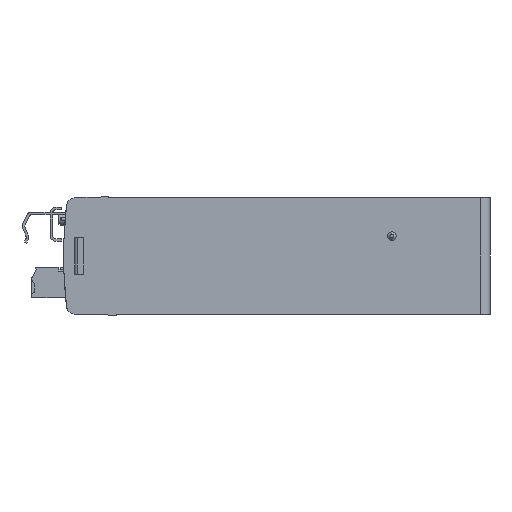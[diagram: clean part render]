
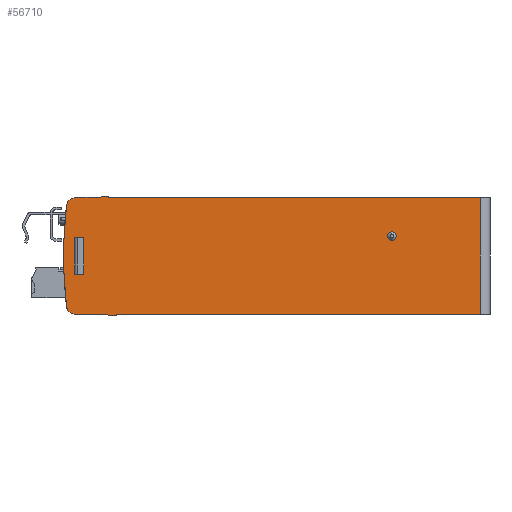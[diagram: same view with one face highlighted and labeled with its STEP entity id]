
A CAD part, left-side view. The second image highlights one B-rep face of the part: STEP entity #56710.
In plain terms, the highlighted planar face has unit normal (-1, 0, 0).
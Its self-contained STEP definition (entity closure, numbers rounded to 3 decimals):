
#3911 = EDGE_CURVE ( 'NONE', #53905, #53910, #69058, .T. ) ;
#4457 = EDGE_CURVE ( 'NONE', #53421, #53531, #69186, .T. ) ;
#4671 = EDGE_CURVE ( 'NONE', #59733, #59724, #8172, .T. ) ;
#4737 = EDGE_CURVE ( 'NONE', #59744, #59745, #8271, .T. ) ;
#5157 = CARTESIAN_POINT ( 'NONE',  ( -124.5, -164.811, -35. ) ) ;
#5158 = DIRECTION ( 'NONE',  ( -1., 0., 0. ) ) ;
#5159 = DIRECTION ( 'NONE',  ( 0., 0., -1. ) ) ;
#6575 = VECTOR ( 'NONE', #8174, 1000. ) ;
#6607 = VECTOR ( 'NONE', #8273, 1000. ) ;
#8172 = LINE ( 'NONE', #8173, #6575 ) ;
#8173 = CARTESIAN_POINT ( 'NONE',  ( -124.5, 0., 0. ) ) ;
#8174 = DIRECTION ( 'NONE',  ( 0., 1., 0. ) ) ;
#8271 = LINE ( 'NONE', #8272, #6607 ) ;
#8272 = CARTESIAN_POINT ( 'NONE',  ( -124.5, 101.981, -70. ) ) ;
#8273 = DIRECTION ( 'NONE',  ( 0., -1., 0. ) ) ;
#16064 = AXIS2_PLACEMENT_3D ( 'NONE', #5157, #5158, #5159 ) ;
#17372 = CARTESIAN_POINT ( 'NONE',  ( -124.5, 96.841, -64.298 ) ) ;
#17376 = DIRECTION ( 'NONE',  ( -1., 0., 0. ) ) ;
#17377 = DIRECTION ( 'NONE',  ( 0., 0., -1. ) ) ;
#17516 = AXIS2_PLACEMENT_3D ( 'NONE', #17372, #17376, #17377 ) ;
#17651 = VECTOR ( 'NONE', #19095, 1000. ) ;
#17835 = VECTOR ( 'NONE', #19811, 1000. ) ;
#17942 = AXIS2_PLACEMENT_3D ( 'NONE', #20904, #20905, #20906 ) ;
#18093 = VECTOR ( 'NONE', #21899, 1000. ) ;
#18094 = VECTOR ( 'NONE', #21904, 1000. ) ;
#18095 = VECTOR ( 'NONE', #21909, 1000. ) ;
#18096 = VECTOR ( 'NONE', #21913, 1000. ) ;
#18097 = VECTOR ( 'NONE', #21916, 1000. ) ;
#18098 = AXIS2_PLACEMENT_3D ( 'NONE', #21895, #21923, #21924 ) ;
#18099 = VECTOR ( 'NONE', #21919, 1000. ) ;
#18100 = VECTOR ( 'NONE', #21922, 1000. ) ;
#19093 = LINE ( 'NONE', #19094, #17651 ) ;
#19094 = CARTESIAN_POINT ( 'NONE',  ( -124.5, 72.318, -70.518 ) ) ;
#19095 = DIRECTION ( 'NONE',  ( 0., 1., 0.017 ) ) ;
#19809 = LINE ( 'NONE', #19810, #17835 ) ;
#19810 = CARTESIAN_POINT ( 'NONE',  ( -124.5, 77.362, 0.518 ) ) ;
#19811 = DIRECTION ( 'NONE',  ( 0., -1., 0.021 ) ) ;
#20904 = CARTESIAN_POINT ( 'NONE',  ( -124.5, 96.839, -5.684 ) ) ;
#20905 = DIRECTION ( 'NONE',  ( -1., 0., 0. ) ) ;
#20906 = DIRECTION ( 'NONE',  ( 0., 0., -1. ) ) ;
#21895 = CARTESIAN_POINT ( 'NONE',  ( -124.5, -92.837, -23.086 ) ) ;
#21896 = LINE ( 'NONE', #21898, #18093 ) ;
#21898 = CARTESIAN_POINT ( 'NONE',  ( -124.5, 72.318, -70. ) ) ;
#21899 = DIRECTION ( 'NONE',  ( 0., 0., -1. ) ) ;
#21901 = LINE ( 'NONE', #21903, #18094 ) ;
#21903 = CARTESIAN_POINT ( 'NONE',  ( -124.5, -145.942, 0. ) ) ;
#21904 = DIRECTION ( 'NONE',  ( 0., 0., 1. ) ) ;
#21906 = LINE ( 'NONE', #21907, #18095 ) ;
#21907 = CARTESIAN_POINT ( 'NONE',  ( -124.5, 77.362, 0. ) ) ;
#21909 = DIRECTION ( 'NONE',  ( 0., 0., -1. ) ) ;
#21911 = LINE ( 'NONE', #21912, #18096 ) ;
#21912 = CARTESIAN_POINT ( 'NONE',  ( -124.5, 97.663, -24.026 ) ) ;
#21913 = DIRECTION ( 'NONE',  ( 0., 0., -1. ) ) ;
#21914 = LINE ( 'NONE', #21915, #18097 ) ;
#21915 = CARTESIAN_POINT ( 'NONE',  ( -124.5, 96.144, -24.026 ) ) ;
#21916 = DIRECTION ( 'NONE',  ( 0., 1., 0. ) ) ;
#21917 = LINE ( 'NONE', #21918, #18099 ) ;
#21918 = CARTESIAN_POINT ( 'NONE',  ( -124.5, 96.144, -24.026 ) ) ;
#21919 = DIRECTION ( 'NONE',  ( 0., 0., -1. ) ) ;
#21920 = LINE ( 'NONE', #21921, #18100 ) ;
#21921 = CARTESIAN_POINT ( 'NONE',  ( -124.5, 96.144, -45.87 ) ) ;
#21922 = DIRECTION ( 'NONE',  ( 0., 1., 0. ) ) ;
#21923 = DIRECTION ( 'NONE',  ( -1., 0., 0. ) ) ;
#21924 = DIRECTION ( 'NONE',  ( 0., 0., -1. ) ) ;
#22956 = AXIS2_PLACEMENT_3D ( 'NONE', #30758, #30759, #30760 ) ;
#22958 = FACE_OUTER_BOUND ( 'NONE', #54123, .T. ) ;
#22960 = FACE_BOUND ( 'NONE', #54124, .T. ) ;
#22962 = FACE_BOUND ( 'NONE', #54125, .T. ) ;
#26418 = ORIENTED_EDGE ( 'NONE', *, *, #51654, .F. ) ;
#26419 = ORIENTED_EDGE ( 'NONE', *, *, #51333, .T. ) ;
#26420 = ORIENTED_EDGE ( 'NONE', *, *, #51814, .T. ) ;
#26421 = ORIENTED_EDGE ( 'NONE', *, *, #4457, .T. ) ;
#26422 = ORIENTED_EDGE ( 'NONE', *, *, #51443, .F. ) ;
#26423 = ORIENTED_EDGE ( 'NONE', *, *, #51985, .F. ) ;
#26424 = ORIENTED_EDGE ( 'NONE', *, *, #4737, .T. ) ;
#26425 = ORIENTED_EDGE ( 'NONE', *, *, #51986, .T. ) ;
#26426 = ORIENTED_EDGE ( 'NONE', *, *, #4671, .T. ) ;
#26427 = ORIENTED_EDGE ( 'NONE', *, *, #51987, .F. ) ;
#26428 = ORIENTED_EDGE ( 'NONE', *, *, #51988, .F. ) ;
#26429 = ORIENTED_EDGE ( 'NONE', *, *, #51990, .T. ) ;
#26430 = ORIENTED_EDGE ( 'NONE', *, *, #51989, .F. ) ;
#26431 = ORIENTED_EDGE ( 'NONE', *, *, #51991, .T. ) ;
#26433 = ORIENTED_EDGE ( 'NONE', *, *, #51992, .F. ) ;
#26434 = ORIENTED_EDGE ( 'NONE', *, *, #3911, .F. ) ;
#27805 = CARTESIAN_POINT ( 'NONE',  ( -124.5, 96.144, -45.87 ) ) ;
#27806 = CARTESIAN_POINT ( 'NONE',  ( -124.5, 96.144, -24.026 ) ) ;
#27807 = CARTESIAN_POINT ( 'NONE',  ( -124.5, 97.663, -45.87 ) ) ;
#27808 = CARTESIAN_POINT ( 'NONE',  ( -124.5, 97.663, -24.026 ) ) ;
#28306 = CARTESIAN_POINT ( 'NONE',  ( -124.5, 102.594, -5.04 ) ) ;
#28311 = CARTESIAN_POINT ( 'NONE',  ( -124.5, 72.318, -70.518 ) ) ;
#28416 = CARTESIAN_POINT ( 'NONE',  ( -124.5, 102.596, -64.942 ) ) ;
#28417 = CARTESIAN_POINT ( 'NONE',  ( -124.5, 96.942, -70.088 ) ) ;
#28790 = CARTESIAN_POINT ( 'NONE',  ( -124.5, -92.837, -20.486 ) ) ;
#28795 = CARTESIAN_POINT ( 'NONE',  ( -124.5, -92.837, -25.686 ) ) ;
#30757 = PLANE ( 'NONE',  #22956 ) ;
#30758 = CARTESIAN_POINT ( 'NONE',  ( -124.5, 0., 0. ) ) ;
#30759 = DIRECTION ( 'NONE',  ( 1., 0., 0. ) ) ;
#30760 = DIRECTION ( 'NONE',  ( 0., 0., -1. ) ) ;
#41308 = CARTESIAN_POINT ( 'NONE',  ( -124.5, 77.362, 0.518 ) ) ;
#41309 = CARTESIAN_POINT ( 'NONE',  ( -124.5, 96.96, 0.106 ) ) ;
#41497 = CARTESIAN_POINT ( 'NONE',  ( -124.5, 77.362, 0. ) ) ;
#41506 = CARTESIAN_POINT ( 'NONE',  ( -124.5, -145.942, 0. ) ) ;
#41517 = CARTESIAN_POINT ( 'NONE',  ( -124.5, 72.318, -70. ) ) ;
#41518 = CARTESIAN_POINT ( 'NONE',  ( -124.5, -145.942, -70. ) ) ;
#49032 = AXIS2_PLACEMENT_3D ( 'NONE', #70858, #70859, #70860 ) ;
#51333 = EDGE_CURVE ( 'NONE', #53531, #53532, #69492, .T. ) ;
#51443 = EDGE_CURVE ( 'NONE', #53426, #53532, #19093, .T. ) ;
#51654 = EDGE_CURVE ( 'NONE', #59536, #59535, #19809, .T. ) ;
#51814 = EDGE_CURVE ( 'NONE', #59536, #53421, #69635, .T. ) ;
#51985 = EDGE_CURVE ( 'NONE', #59744, #53426, #21896, .T. ) ;
#51986 = EDGE_CURVE ( 'NONE', #59745, #59733, #21901, .T. ) ;
#51987 = EDGE_CURVE ( 'NONE', #59535, #59724, #21906, .T. ) ;
#51988 = EDGE_CURVE ( 'NONE', #52923, #52922, #21911, .T. ) ;
#51989 = EDGE_CURVE ( 'NONE', #52921, #52923, #21914, .T. ) ;
#51990 = EDGE_CURVE ( 'NONE', #52921, #52920, #21917, .T. ) ;
#51991 = EDGE_CURVE ( 'NONE', #52920, #52922, #21920, .T. ) ;
#51992 = EDGE_CURVE ( 'NONE', #53910, #53905, #69673, .T. ) ;
#52920 = VERTEX_POINT ( 'NONE', #27805 ) ;
#52921 = VERTEX_POINT ( 'NONE', #27806 ) ;
#52922 = VERTEX_POINT ( 'NONE', #27807 ) ;
#52923 = VERTEX_POINT ( 'NONE', #27808 ) ;
#53421 = VERTEX_POINT ( 'NONE', #28306 ) ;
#53426 = VERTEX_POINT ( 'NONE', #28311 ) ;
#53531 = VERTEX_POINT ( 'NONE', #28416 ) ;
#53532 = VERTEX_POINT ( 'NONE', #28417 ) ;
#53905 = VERTEX_POINT ( 'NONE', #28790 ) ;
#53910 = VERTEX_POINT ( 'NONE', #28795 ) ;
#54123 = EDGE_LOOP ( 'NONE', ( #26418, #26420, #26421, #26419, #26422, #26423, #26424, #26425, #26426, #26427 ) ) ;
#54124 = EDGE_LOOP ( 'NONE', ( #26428, #26430, #26429, #26431 ) ) ;
#54125 = EDGE_LOOP ( 'NONE', ( #26434, #26433 ) ) ;
#56710 = ADVANCED_FACE ( 'NONE', ( #22958, #22960, #22962 ), #30757, .F. ) ;
#59535 = VERTEX_POINT ( 'NONE', #41308 ) ;
#59536 = VERTEX_POINT ( 'NONE', #41309 ) ;
#59724 = VERTEX_POINT ( 'NONE', #41497 ) ;
#59733 = VERTEX_POINT ( 'NONE', #41506 ) ;
#59744 = VERTEX_POINT ( 'NONE', #41517 ) ;
#59745 = VERTEX_POINT ( 'NONE', #41518 ) ;
#69058 = CIRCLE ( 'NONE', #49032, 2.6 ) ;
#69186 = CIRCLE ( 'NONE', #16064, 269.078 ) ;
#69492 = CIRCLE ( 'NONE', #17516, 5.791 ) ;
#69635 = CIRCLE ( 'NONE', #17942, 5.791 ) ;
#69673 = CIRCLE ( 'NONE', #18098, 2.6 ) ;
#70858 = CARTESIAN_POINT ( 'NONE',  ( -124.5, -92.837, -23.086 ) ) ;
#70859 = DIRECTION ( 'NONE',  ( -1., 0., 0. ) ) ;
#70860 = DIRECTION ( 'NONE',  ( 0., 0., -1. ) ) ;
